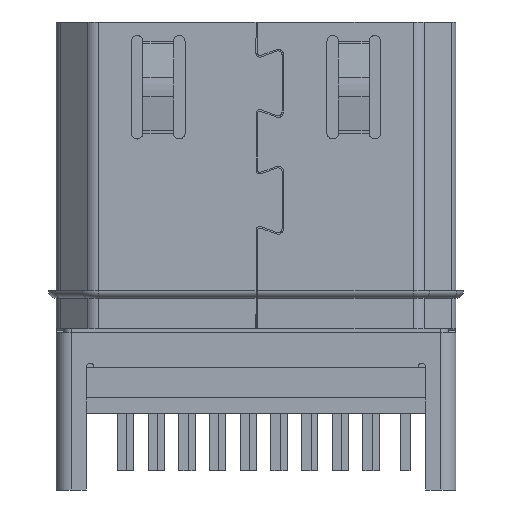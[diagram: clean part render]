
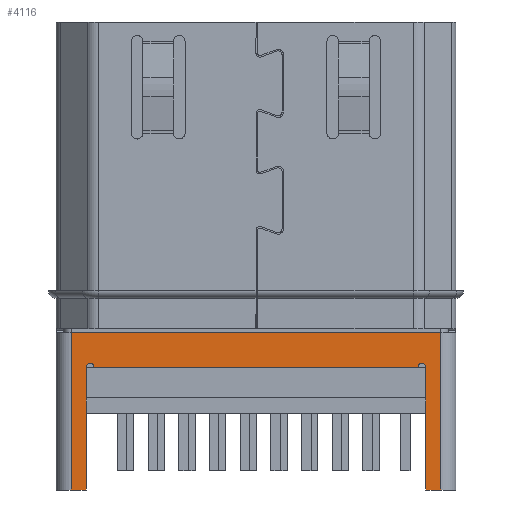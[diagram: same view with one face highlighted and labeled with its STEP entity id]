
A CAD part, front view. The second image highlights one B-rep face of the part: STEP entity #4116.
In plain terms, the highlighted planar face has unit normal (0, -1, 0).
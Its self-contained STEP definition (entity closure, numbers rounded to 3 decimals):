
#12 = CARTESIAN_POINT ( 'NONE',  ( -4.81, -1.21, -12.2 ) ) ;
#13 = VECTOR ( 'NONE', #1441, 1000. ) ;
#104 = ORIENTED_EDGE ( 'NONE', *, *, #12468, .T. ) ;
#513 = VECTOR ( 'NONE', #2690, 1000. ) ;
#589 = VERTEX_POINT ( 'NONE', #4824 ) ;
#860 = CARTESIAN_POINT ( 'NONE',  ( -4.425, -1.21, -9. ) ) ;
#1093 = VERTEX_POINT ( 'NONE', #860 ) ;
#1149 = EDGE_CURVE ( 'NONE', #12359, #4200, #13195, .T. ) ;
#1441 = DIRECTION ( 'NONE',  ( 0., 0., 1. ) ) ;
#1442 = PLANE ( 'NONE',  #3010 ) ;
#1710 = CARTESIAN_POINT ( 'NONE',  ( 4.425, -1.21, -9. ) ) ;
#1718 = VECTOR ( 'NONE', #5638, 1000. ) ;
#1771 = EDGE_CURVE ( 'NONE', #12415, #1093, #13338, .T. ) ;
#2690 = DIRECTION ( 'NONE',  ( -1., 0., 0. ) ) ;
#2703 = CARTESIAN_POINT ( 'NONE',  ( 4.225, -1.21, -9. ) ) ;
#2780 = CARTESIAN_POINT ( 'NONE',  ( -4.81, -1.21, -12.2 ) ) ;
#2888 = LINE ( 'NONE', #1710, #3798 ) ;
#3010 = AXIS2_PLACEMENT_3D ( 'NONE', #6159, #7282, #9305 ) ;
#3307 = EDGE_CURVE ( 'NONE', #13173, #4200, #5966, .T. ) ;
#3512 = ORIENTED_EDGE ( 'NONE', *, *, #3307, .F. ) ;
#3798 = VECTOR ( 'NONE', #6339, 1000. ) ;
#3953 = DIRECTION ( 'NONE',  ( 0., 1., 0. ) ) ;
#4116 = ADVANCED_FACE ( 'NONE', ( #12890 ), #1442, .T. ) ;
#4200 = VERTEX_POINT ( 'NONE', #8525 ) ;
#4577 = DIRECTION ( 'NONE',  ( 1., 0., 0. ) ) ;
#4696 = CARTESIAN_POINT ( 'NONE',  ( -4.225, -1.21, -9. ) ) ;
#4824 = CARTESIAN_POINT ( 'NONE',  ( 4.425, -1.21, -9. ) ) ;
#5073 = CARTESIAN_POINT ( 'NONE',  ( 4.325, -1.21, -9. ) ) ;
#5200 = CARTESIAN_POINT ( 'NONE',  ( 0., -1.21, -12.2 ) ) ;
#5638 = DIRECTION ( 'NONE',  ( 1., 0., 0. ) ) ;
#5855 = ORIENTED_EDGE ( 'NONE', *, *, #11473, .F. ) ;
#5869 = CIRCLE ( 'NONE', #9910, 0.1 ) ;
#5966 = LINE ( 'NONE', #8433, #12198 ) ;
#6159 = CARTESIAN_POINT ( 'NONE',  ( 0., -1.21, -12.2 ) ) ;
#6228 = CARTESIAN_POINT ( 'NONE',  ( 4.425, -1.21, -12.2 ) ) ;
#6339 = DIRECTION ( 'NONE',  ( 0., 0., -1. ) ) ;
#6497 = ORIENTED_EDGE ( 'NONE', *, *, #11753, .F. ) ;
#6770 = VECTOR ( 'NONE', #8792, 1000. ) ;
#6957 = ORIENTED_EDGE ( 'NONE', *, *, #1771, .F. ) ;
#7282 = DIRECTION ( 'NONE',  ( 0., -1., 0. ) ) ;
#7431 = EDGE_CURVE ( 'NONE', #589, #11856, #2888, .T. ) ;
#7593 = ORIENTED_EDGE ( 'NONE', *, *, #9443, .T. ) ;
#7668 = ORIENTED_EDGE ( 'NONE', *, *, #1149, .T. ) ;
#7691 = ORIENTED_EDGE ( 'NONE', *, *, #13481, .T. ) ;
#7774 = DIRECTION ( 'NONE',  ( 0., 0., -1. ) ) ;
#7989 = ORIENTED_EDGE ( 'NONE', *, *, #7431, .T. ) ;
#8157 = EDGE_LOOP ( 'NONE', ( #7989, #7691, #7668, #3512, #5855, #6497, #10771, #6957, #104, #7593 ) ) ;
#8392 = EDGE_CURVE ( 'NONE', #1093, #9577, #10922, .T. ) ;
#8433 = CARTESIAN_POINT ( 'NONE',  ( 0., -1.21, -8.1 ) ) ;
#8483 = DIRECTION ( 'NONE',  ( -1., 0., 0. ) ) ;
#8516 = CARTESIAN_POINT ( 'NONE',  ( 4.81, -1.21, -12.2 ) ) ;
#8525 = CARTESIAN_POINT ( 'NONE',  ( 4.81, -1.21, -8.1 ) ) ;
#8611 = AXIS2_PLACEMENT_3D ( 'NONE', #13416, #10298, #4577 ) ;
#8792 = DIRECTION ( 'NONE',  ( 0., 0., 1. ) ) ;
#8974 = CARTESIAN_POINT ( 'NONE',  ( -4.425, -1.21, -9. ) ) ;
#9305 = DIRECTION ( 'NONE',  ( 1., 0., 0. ) ) ;
#9363 = VERTEX_POINT ( 'NONE', #2703 ) ;
#9443 = EDGE_CURVE ( 'NONE', #9363, #589, #5869, .T. ) ;
#9486 = CARTESIAN_POINT ( 'NONE',  ( 4.81, -1.21, -12.2 ) ) ;
#9577 = VERTEX_POINT ( 'NONE', #14088 ) ;
#9910 = AXIS2_PLACEMENT_3D ( 'NONE', #5073, #3953, #8483 ) ;
#10273 = CARTESIAN_POINT ( 'NONE',  ( 0., -1.21, -9. ) ) ;
#10298 = DIRECTION ( 'NONE',  ( 0., -1., 0. ) ) ;
#10339 = LINE ( 'NONE', #2780, #13 ) ;
#10522 = DIRECTION ( 'NONE',  ( 1., 0., 0. ) ) ;
#10719 = VECTOR ( 'NONE', #7774, 1000. ) ;
#10771 = ORIENTED_EDGE ( 'NONE', *, *, #8392, .F. ) ;
#10922 = LINE ( 'NONE', #8974, #10719 ) ;
#11458 = LINE ( 'NONE', #10273, #1718 ) ;
#11473 = EDGE_CURVE ( 'NONE', #13240, #13173, #10339, .T. ) ;
#11676 = CARTESIAN_POINT ( 'NONE',  ( 0., -1.21, -12.2 ) ) ;
#11753 = EDGE_CURVE ( 'NONE', #9577, #13240, #12869, .T. ) ;
#11856 = VERTEX_POINT ( 'NONE', #6228 ) ;
#11971 = LINE ( 'NONE', #5200, #14287 ) ;
#12198 = VECTOR ( 'NONE', #10522, 1000. ) ;
#12359 = VERTEX_POINT ( 'NONE', #9486 ) ;
#12415 = VERTEX_POINT ( 'NONE', #4696 ) ;
#12468 = EDGE_CURVE ( 'NONE', #12415, #9363, #11458, .T. ) ;
#12869 = LINE ( 'NONE', #11676, #513 ) ;
#12890 = FACE_OUTER_BOUND ( 'NONE', #8157, .T. ) ;
#13014 = DIRECTION ( 'NONE',  ( 1., 0., 0. ) ) ;
#13173 = VERTEX_POINT ( 'NONE', #13586 ) ;
#13195 = LINE ( 'NONE', #8516, #6770 ) ;
#13240 = VERTEX_POINT ( 'NONE', #12 ) ;
#13338 = CIRCLE ( 'NONE', #8611, 0.1 ) ;
#13416 = CARTESIAN_POINT ( 'NONE',  ( -4.325, -1.21, -9. ) ) ;
#13481 = EDGE_CURVE ( 'NONE', #11856, #12359, #11971, .T. ) ;
#13586 = CARTESIAN_POINT ( 'NONE',  ( -4.81, -1.21, -8.1 ) ) ;
#14088 = CARTESIAN_POINT ( 'NONE',  ( -4.425, -1.21, -12.2 ) ) ;
#14287 = VECTOR ( 'NONE', #13014, 1000. ) ;
